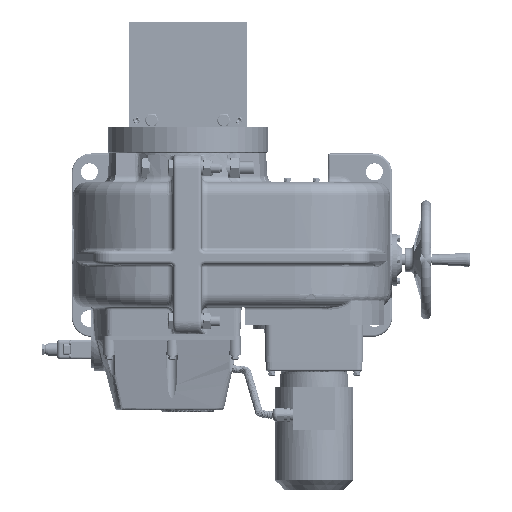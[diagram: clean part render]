
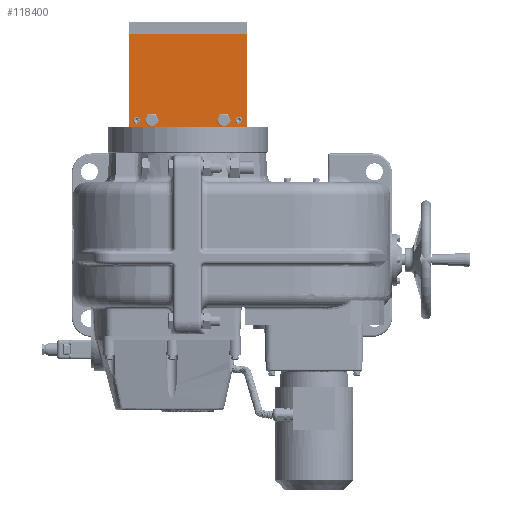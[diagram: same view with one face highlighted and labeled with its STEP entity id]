
A CAD part, top view. The second image highlights one B-rep face of the part: STEP entity #118400.
In plain terms, the highlighted planar face has unit normal (0, 0, 1).
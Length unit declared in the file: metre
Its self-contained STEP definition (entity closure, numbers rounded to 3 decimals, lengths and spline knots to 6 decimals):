
#118400=ADVANCED_FACE('',(#118406,#118420,#118434,#118468,#118482),
  #118401,.F.);
#118401=PLANE('',#118402);
#118402=AXIS2_PLACEMENT_3D('',#118403,#118404,#118405);
#118403=CARTESIAN_POINT('',(-0.07869,0.03077,0.139));
#118404=DIRECTION('',(-0.0,0.,-1.0));
#118405=DIRECTION('',(-0.0,1.0,0.));
#118406=FACE_BOUND('',#118407,.T.);
#118407=EDGE_LOOP('',(#118408));
#118408=ORIENTED_EDGE('',*,*,#118409,.F.);
#118409=EDGE_CURVE('',#118410,#118410,#118413,.T.);
#118410=VERTEX_POINT('fictive',#118411);
#118411=CARTESIAN_POINT('',(0.078,0.18475,0.139));
#118412=CARTESIAN_POINT('',(0.078,0.18475,0.139));
#118413=(B_SPLINE_CURVE(3,(#118412,#118414,#118415,#118416,#118417,#118418,
  #118419),.UNSPECIFIED.,.T.,.U.)B_SPLINE_CURVE_WITH_KNOTS((4,3,4),(0.0,
  0.5,1.0),.UNSPECIFIED.)BOUNDED_CURVE()CURVE()GEOMETRIC_REPRESENTATION_ITEM(
  )RATIONAL_B_SPLINE_CURVE((1.0,0.333,0.333,1.0,
  0.333,0.333,1.0))REPRESENTATION_ITEM(''));
#118414=CARTESIAN_POINT('',(0.088,0.18475,0.139));
#118415=CARTESIAN_POINT('',(0.088,0.19475,0.139));
#118416=CARTESIAN_POINT('',(0.078,0.19475,0.139));
#118417=CARTESIAN_POINT('',(0.068,0.19475,0.139));
#118418=CARTESIAN_POINT('',(0.068,0.18475,0.139));
#118419=CARTESIAN_POINT('',(0.078,0.18475,0.139));
#118420=FACE_BOUND('',#118421,.T.);
#118421=EDGE_LOOP('',(#118422));
#118422=ORIENTED_EDGE('',*,*,#118423,.F.);
#118423=EDGE_CURVE('',#118424,#118424,#118427,.T.);
#118424=VERTEX_POINT('fictive',#118425);
#118425=CARTESIAN_POINT('',(-0.055,0.18255,0.139));
#118426=CARTESIAN_POINT('',(-0.055,0.18255,0.139));
#118427=(B_SPLINE_CURVE(3,(#118426,#118428,#118429,#118430,#118431,#118432,
  #118433),.UNSPECIFIED.,.T.,.U.)B_SPLINE_CURVE_WITH_KNOTS((4,3,4),(0.0,
  0.5,1.0),.UNSPECIFIED.)BOUNDED_CURVE()CURVE()GEOMETRIC_REPRESENTATION_ITEM(
  )RATIONAL_B_SPLINE_CURVE((1.0,0.333,0.333,1.0,
  0.333,0.333,1.0))REPRESENTATION_ITEM(''));
#118428=CARTESIAN_POINT('',(-0.0406,0.18255,0.139));
#118429=CARTESIAN_POINT('',(-0.0406,0.19695,0.139));
#118430=CARTESIAN_POINT('',(-0.055,0.19695,0.139));
#118431=CARTESIAN_POINT('',(-0.0694,0.19695,0.139));
#118432=CARTESIAN_POINT('',(-0.0694,0.18255,0.139));
#118433=CARTESIAN_POINT('',(-0.055,0.18255,0.139));
#118434=FACE_OUTER_BOUND('',#118435,.T.);
#118435=EDGE_LOOP('',(#118436,#118446,#118454,#118462));
#118436=ORIENTED_EDGE('',*,*,#118437,.F.);
#118437=EDGE_CURVE('',#118438,#118440,#118442,.T.);
#118438=VERTEX_POINT('',#118439);
#118439=CARTESIAN_POINT('',(-0.09,0.32075,0.139));
#118440=VERTEX_POINT('',#118441);
#118441=CARTESIAN_POINT('',(0.09,0.32075,0.139));
#118442=LINE('',#118443,#118444);
#118443=CARTESIAN_POINT('',(-0.09,0.32075,0.139));
#118444=VECTOR('',#118445,1.0);
#118445=DIRECTION('',(1.0,0.0,0.0));
#118446=ORIENTED_EDGE('',*,*,#118447,.F.);
#118447=EDGE_CURVE('',#118448,#118438,#118450,.T.);
#118448=VERTEX_POINT('',#118449);
#118449=CARTESIAN_POINT('',(-0.09,0.17875,0.139));
#118450=LINE('',#118451,#118452);
#118451=CARTESIAN_POINT('',(-0.09,0.17875,0.139));
#118452=VECTOR('',#118453,1.0);
#118453=DIRECTION('',(-0.0,1.0,0.));
#118454=ORIENTED_EDGE('',*,*,#118455,.F.);
#118455=EDGE_CURVE('',#118456,#118448,#118458,.T.);
#118456=VERTEX_POINT('',#118457);
#118457=CARTESIAN_POINT('',(0.09,0.17875,0.139));
#118458=LINE('',#118459,#118460);
#118459=CARTESIAN_POINT('',(0.09,0.17875,0.139));
#118460=VECTOR('',#118461,1.0);
#118461=DIRECTION('',(-1.0,-0.0,-0.0));
#118462=ORIENTED_EDGE('',*,*,#118463,.F.);
#118463=EDGE_CURVE('',#118440,#118456,#118464,.T.);
#118464=LINE('',#118465,#118466);
#118465=CARTESIAN_POINT('',(0.09,0.32075,0.139));
#118466=VECTOR('',#118467,1.0);
#118467=DIRECTION('',(0.0,-1.0,0.));
#118468=FACE_BOUND('',#118469,.T.);
#118469=EDGE_LOOP('',(#118470));
#118470=ORIENTED_EDGE('',*,*,#118471,.F.);
#118471=EDGE_CURVE('',#118472,#118472,#118475,.T.);
#118472=VERTEX_POINT('fictive',#118473);
#118473=CARTESIAN_POINT('',(0.055,0.18255,0.139));
#118474=CARTESIAN_POINT('',(0.055,0.18255,0.139));
#118475=(B_SPLINE_CURVE(3,(#118474,#118476,#118477,#118478,#118479,#118480,
  #118481),.UNSPECIFIED.,.T.,.U.)B_SPLINE_CURVE_WITH_KNOTS((4,3,4),(0.0,
  0.5,1.0),.UNSPECIFIED.)BOUNDED_CURVE()CURVE()GEOMETRIC_REPRESENTATION_ITEM(
  )RATIONAL_B_SPLINE_CURVE((1.0,0.333,0.333,1.0,
  0.333,0.333,1.0))REPRESENTATION_ITEM(''));
#118476=CARTESIAN_POINT('',(0.0694,0.18255,0.139));
#118477=CARTESIAN_POINT('',(0.0694,0.19695,0.139));
#118478=CARTESIAN_POINT('',(0.055,0.19695,0.139));
#118479=CARTESIAN_POINT('',(0.0406,0.19695,0.139));
#118480=CARTESIAN_POINT('',(0.0406,0.18255,0.139));
#118481=CARTESIAN_POINT('',(0.055,0.18255,0.139));
#118482=FACE_BOUND('',#118483,.T.);
#118483=EDGE_LOOP('',(#118484));
#118484=ORIENTED_EDGE('',*,*,#118485,.F.);
#118485=EDGE_CURVE('',#118486,#118486,#118489,.T.);
#118486=VERTEX_POINT('fictive',#118487);
#118487=CARTESIAN_POINT('',(-0.078,0.18475,0.139));
#118488=CARTESIAN_POINT('',(-0.078,0.18475,0.139));
#118489=(B_SPLINE_CURVE(3,(#118488,#118490,#118491,#118492,#118493,#118494,
  #118495),.UNSPECIFIED.,.T.,.U.)B_SPLINE_CURVE_WITH_KNOTS((4,3,4),(0.0,
  0.5,1.0),.UNSPECIFIED.)BOUNDED_CURVE()CURVE()GEOMETRIC_REPRESENTATION_ITEM(
  )RATIONAL_B_SPLINE_CURVE((1.0,0.333,0.333,1.0,
  0.333,0.333,1.0))REPRESENTATION_ITEM(''));
#118490=CARTESIAN_POINT('',(-0.068,0.18475,0.139));
#118491=CARTESIAN_POINT('',(-0.068,0.19475,0.139));
#118492=CARTESIAN_POINT('',(-0.078,0.19475,0.139));
#118493=CARTESIAN_POINT('',(-0.088,0.19475,0.139));
#118494=CARTESIAN_POINT('',(-0.088,0.18475,0.139));
#118495=CARTESIAN_POINT('',(-0.078,0.18475,0.139));
